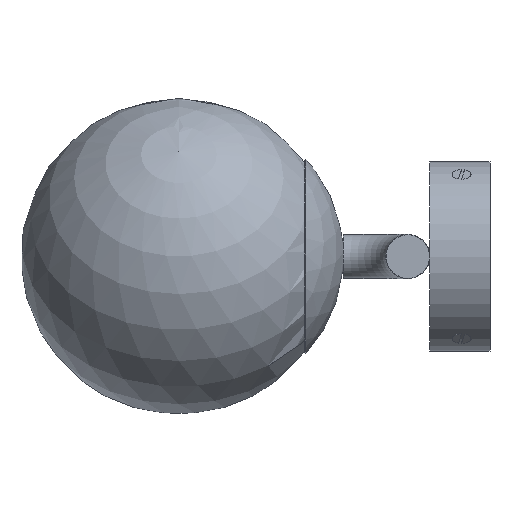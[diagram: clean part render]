
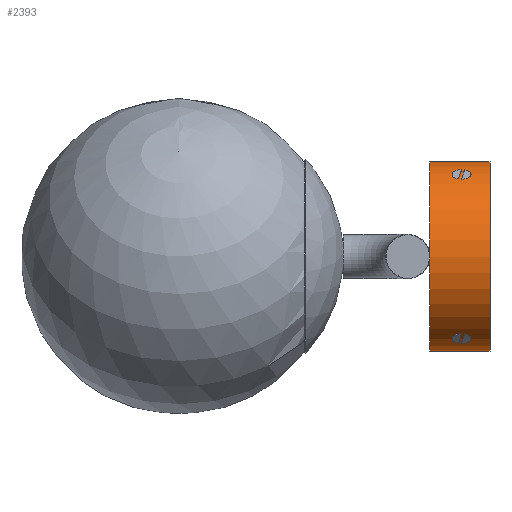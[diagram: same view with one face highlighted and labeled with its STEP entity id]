
A CAD part, front view. The second image highlights one B-rep face of the part: STEP entity #2393.
In plain terms, the highlighted cylindrical face has radius 60 mm (diameter 120 mm), a full revolution.
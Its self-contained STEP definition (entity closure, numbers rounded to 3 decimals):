
#102=LINE('',#4558,#263);
#263=VECTOR('',#2989,60.);
#405=CYLINDRICAL_SURFACE('',#2608,60.);
#481=FACE_OUTER_BOUND('',#637,.T.);
#637=EDGE_LOOP('',(#1571,#1572,#1573,#1574));
#789=CIRCLE('',#2605,60.);
#790=CIRCLE('',#2607,60.);
#951=VERTEX_POINT('',#4552);
#952=VERTEX_POINT('',#4555);
#1181=EDGE_CURVE('',#951,#951,#789,.T.);
#1182=EDGE_CURVE('',#952,#952,#790,.T.);
#1183=EDGE_CURVE('',#951,#952,#102,.T.);
#1571=ORIENTED_EDGE('',*,*,#1181,.F.);
#1572=ORIENTED_EDGE('',*,*,#1183,.T.);
#1573=ORIENTED_EDGE('',*,*,#1182,.F.);
#1574=ORIENTED_EDGE('',*,*,#1183,.F.);
#2393=ADVANCED_FACE('',(#481),#405,.T.);
#2605=AXIS2_PLACEMENT_3D('',#4553,#2981,#2982);
#2607=AXIS2_PLACEMENT_3D('',#4556,#2985,#2986);
#2608=AXIS2_PLACEMENT_3D('',#4557,#2987,#2988);
#2981=DIRECTION('center_axis',(-1.,0.,0.));
#2982=DIRECTION('ref_axis',(0.,0.,-1.));
#2985=DIRECTION('center_axis',(1.,0.,0.));
#2986=DIRECTION('ref_axis',(0.,0.,-1.));
#2987=DIRECTION('center_axis',(-1.,0.,0.));
#2988=DIRECTION('ref_axis',(0.,0.,-1.));
#2989=DIRECTION('',(1.,0.,0.));
#4552=CARTESIAN_POINT('',(0.,0.,60.));
#4553=CARTESIAN_POINT('Origin',(0.,0.,0.));
#4555=CARTESIAN_POINT('',(38.,0.,60.));
#4556=CARTESIAN_POINT('Origin',(38.,0.,0.));
#4557=CARTESIAN_POINT('Origin',(38.,0.,0.));
#4558=CARTESIAN_POINT('',(38.,0.,60.));
